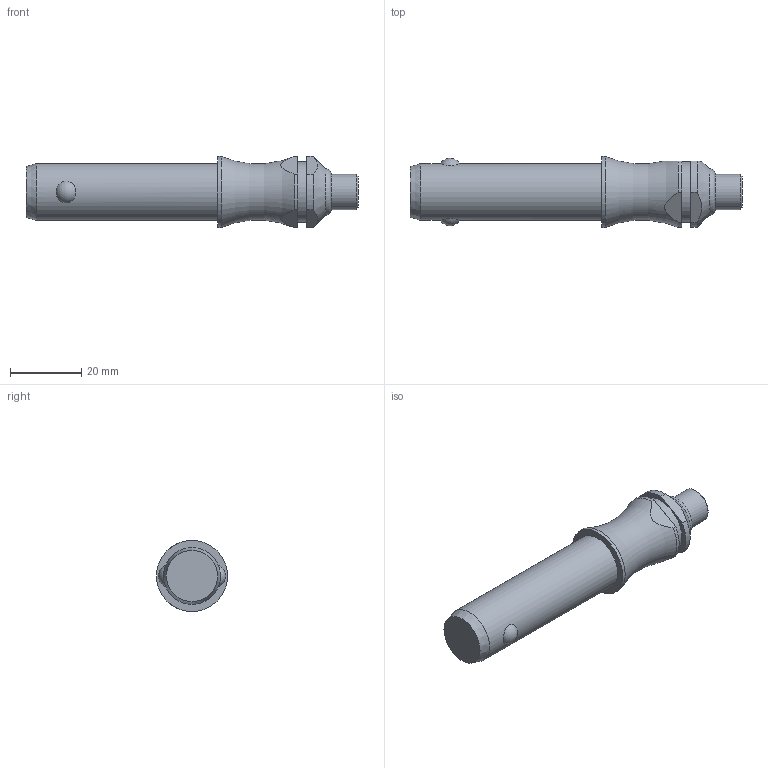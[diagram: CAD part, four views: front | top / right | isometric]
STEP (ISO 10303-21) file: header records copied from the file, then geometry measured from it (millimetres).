
FILE_DESCRIPTION( ( 'STEP AP203' ), '1' );
FILE_NAME( 'C:/Temp/Ganter_Step_05_03_2020/data/3_1/gn113_3/Stainless Steel-Ball lock pin GN 113.3-16-40 (deactivated).stp', '2020-03-12T08:18:52', ( 'License CC BY-ND 4.0' ), ( 'CADENAS' ), ' ', 'PARTsolutions', ' ' );
FILE_SCHEMA( ( 'CONFIG_CONTROL_DESIGN' ) );
Length unit declared in the file: millimetre
Products named in the file (1): _Stainless Steel-Ball lock pin GN 113.3-16-40 (deactivated)
Bounding box: 93.5 x 20 x 20 mm (x, y, z)
Volume: 18806.6 mm3; surface area: 5274.4 mm2
Topology: 1 solids, 1 shells, 28 faces, 60 edges, 39 vertices
Faces by surface type: plane 11, cylinder 10, cone 3, torus 2, sphere 2
Full cylindrical faces by diameter (mm): 10 x1, 16 x1, 17 x1, 20 x1
Entity records: 966 total; most frequent: CARTESIAN_POINT 350, DIRECTION 122, ORIENTED_EDGE 98, AXIS2_PLACEMENT_3D 52, EDGE_CURVE 49, EDGE_LOOP 42, VERTEX_POINT 38, FACE_OUTER_BOUND 34
